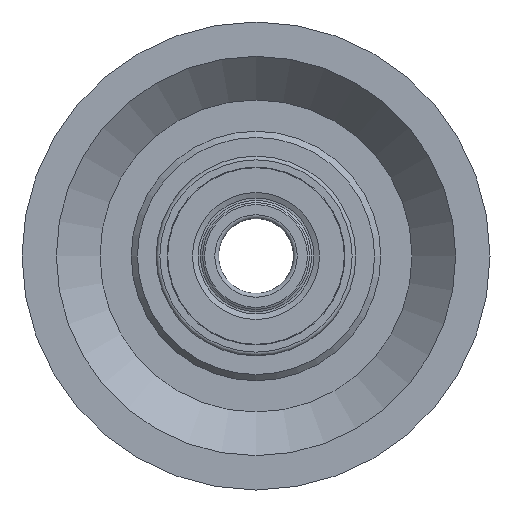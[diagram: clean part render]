
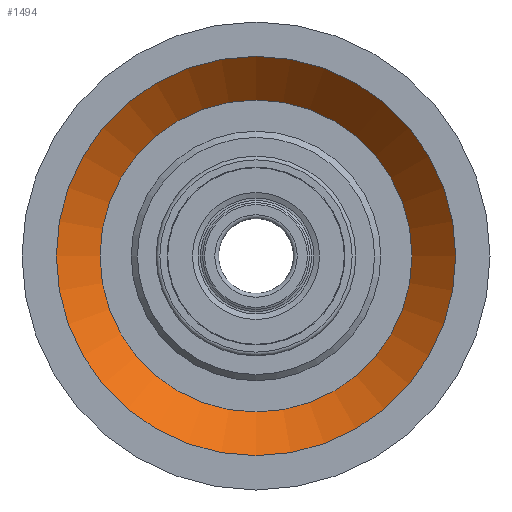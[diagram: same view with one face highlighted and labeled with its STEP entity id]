
A CAD part, left-side view. The second image highlights one B-rep face of the part: STEP entity #1494.
In plain terms, the highlighted conical face has half-angle 45 degrees and reference radius 28.5 mm.
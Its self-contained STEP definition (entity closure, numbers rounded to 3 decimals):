
#165=LINE('',#2676,#202);
#202=VECTOR('',#2123,28.5);
#234=CONICAL_SURFACE('',#1789,28.5,0.785);
#264=FACE_OUTER_BOUND('',#345,.T.);
#345=EDGE_LOOP('',(#1097,#1098,#1099,#1100,#1101,#1102));
#474=CIRCLE('',#1787,25.);
#475=CIRCLE('',#1788,25.);
#476=CIRCLE('',#1790,32.);
#477=CIRCLE('',#1791,32.);
#645=VERTEX_POINT('',#2670);
#646=VERTEX_POINT('',#2671);
#647=VERTEX_POINT('',#2675);
#648=VERTEX_POINT('',#2677);
#834=EDGE_CURVE('',#645,#646,#474,.T.);
#835=EDGE_CURVE('',#646,#645,#475,.T.);
#836=EDGE_CURVE('',#646,#647,#165,.T.);
#837=EDGE_CURVE('',#648,#647,#476,.T.);
#838=EDGE_CURVE('',#647,#648,#477,.T.);
#1097=ORIENTED_EDGE('',*,*,#834,.T.);
#1098=ORIENTED_EDGE('',*,*,#836,.T.);
#1099=ORIENTED_EDGE('',*,*,#837,.F.);
#1100=ORIENTED_EDGE('',*,*,#838,.F.);
#1101=ORIENTED_EDGE('',*,*,#836,.F.);
#1102=ORIENTED_EDGE('',*,*,#835,.T.);
#1494=ADVANCED_FACE('',(#264),#234,.F.);
#1787=AXIS2_PLACEMENT_3D('',#2672,#2117,#2118);
#1788=AXIS2_PLACEMENT_3D('',#2673,#2119,#2120);
#1789=AXIS2_PLACEMENT_3D('',#2674,#2121,#2122);
#1790=AXIS2_PLACEMENT_3D('',#2678,#2124,#2125);
#1791=AXIS2_PLACEMENT_3D('',#2679,#2126,#2127);
#2117=DIRECTION('center_axis',(1.,0.,0.));
#2118=DIRECTION('ref_axis',(0.,0.,-1.));
#2119=DIRECTION('center_axis',(1.,0.,0.));
#2120=DIRECTION('ref_axis',(0.,0.,-1.));
#2121=DIRECTION('center_axis',(-1.,0.,0.));
#2122=DIRECTION('ref_axis',(0.,1.,0.));
#2123=DIRECTION('',(-0.707,-0.707,0.));
#2124=DIRECTION('center_axis',(1.,0.,0.));
#2125=DIRECTION('ref_axis',(0.,0.,-1.));
#2126=DIRECTION('center_axis',(1.,0.,0.));
#2127=DIRECTION('ref_axis',(0.,0.,-1.));
#2670=CARTESIAN_POINT('',(-2.,25.,0.));
#2671=CARTESIAN_POINT('',(-2.,-25.,0.));
#2672=CARTESIAN_POINT('Origin',(-2.,0.,
0.));
#2673=CARTESIAN_POINT('Origin',(-2.,0.,
0.));
#2674=CARTESIAN_POINT('Origin',(-5.5,0.,
0.));
#2675=CARTESIAN_POINT('',(-9.,-32.,0.));
#2676=CARTESIAN_POINT('',(-5.5,-28.5,0.));
#2677=CARTESIAN_POINT('',(-9.,32.,0.));
#2678=CARTESIAN_POINT('Origin',(-9.,0.,
0.));
#2679=CARTESIAN_POINT('Origin',(-9.,0.,
0.));
